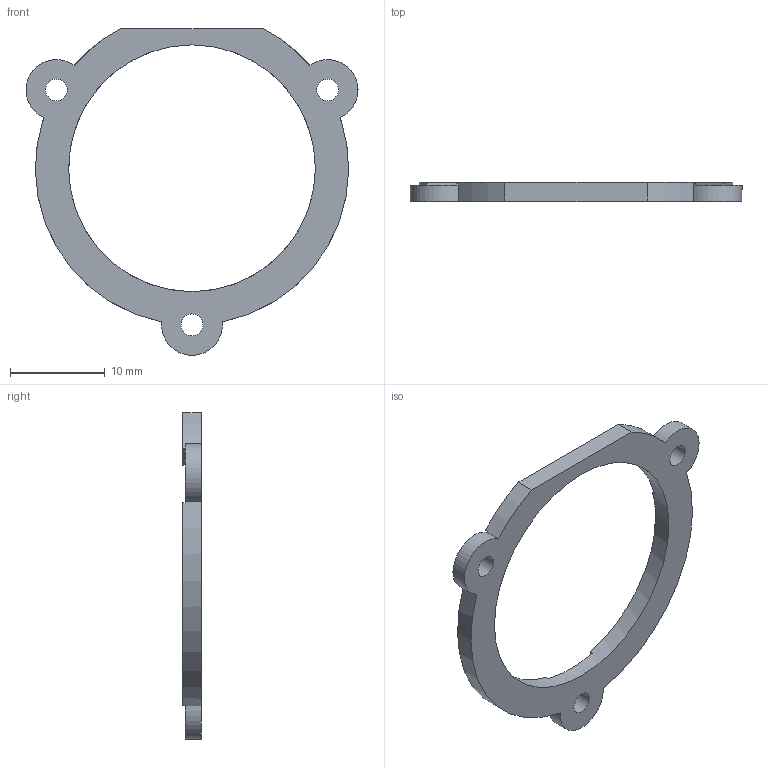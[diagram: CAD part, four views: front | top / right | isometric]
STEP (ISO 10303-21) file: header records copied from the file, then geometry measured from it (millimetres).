
FILE_DESCRIPTION(('Open CASCADE Model'),'2;1');
FILE_NAME('Open CASCADE Shape Model','2026-11-23T18:09:59',('Author'),( 'Open CASCADE'),'Open CASCADE STEP processor 8.0','build123d', 'Unknown');
FILE_SCHEMA(('AUTOMOTIVE_DESIGN { 1 0 10303 214 1 1 1 1 }'));
Length unit declared in the file: millimetre
Products named in the file (1): SOLID
Bounding box: 34.98 x 2 x 34.4 mm (x, y, z)
Volume: 655.6 mm3; surface area: 1110.6 mm2
Topology: 1 solids, 1 shells, 25 faces, 72 edges, 48 vertices
Faces by surface type: plane 14, cylinder 11
Full cylindrical faces by diameter (mm): 2.3 x3, 26 x1
Entity records: 1806 total; most frequent: CARTESIAN_POINT 466, DIRECTION 226, ORIENTED_EDGE 144, PCURVE 144, DEFINITIONAL_REPRESENTATION 144, LINE 92, VECTOR 92, EDGE_CURVE 72
